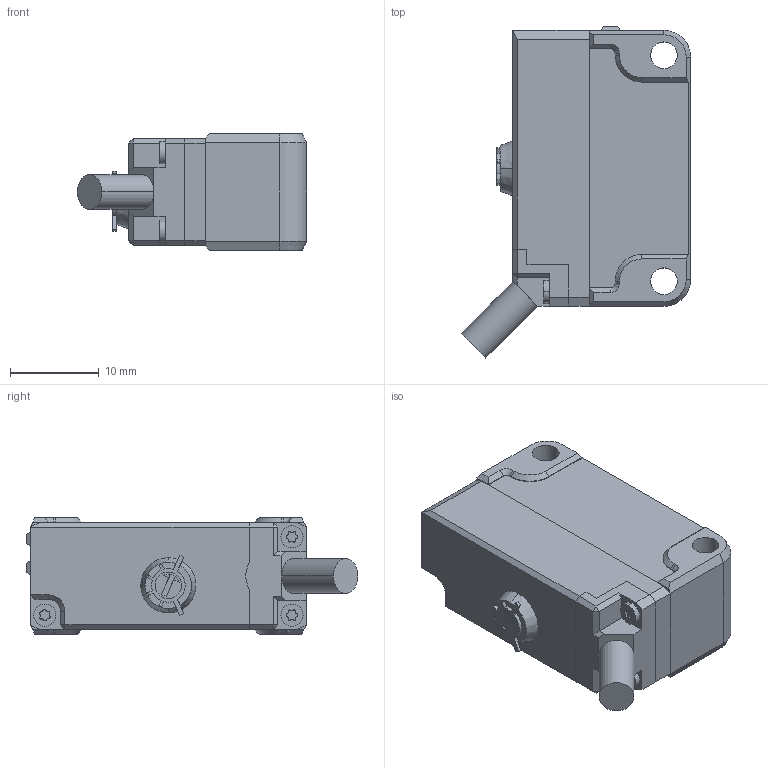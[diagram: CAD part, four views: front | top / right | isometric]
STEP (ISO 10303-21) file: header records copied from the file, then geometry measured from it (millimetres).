
FILE_DESCRIPTION (( 'STEP AP214' ), '1' );
FILE_NAME ('センサー(投光器).STEP', '2025-07-28T03:07:04', ( '' ), ( '' ), 'SwSTEP 2.0', 'SolidWorks 2023', '' );
FILE_SCHEMA (( 'AUTOMOTIVE_DESIGN' ));
Length unit declared in the file: millimetre
Products named in the file (1): センサー(投光器)
Bounding box: 25.77 x 37.32 x 13.1 mm (x, y, z)
Volume: 7279.5 mm3; surface area: 2762.6 mm2
Topology: 1 solids, 1 shells, 235 faces, 624 edges, 406 vertices
Faces by surface type: plane 134, cylinder 86, cone 15
Entity records: 7372 total; most frequent: CARTESIAN_POINT 1315, DIRECTION 1294, ORIENTED_EDGE 1248, EDGE_CURVE 624, AXIS2_PLACEMENT_3D 438, LINE 418, VECTOR 418, VERTEX_POINT 406
